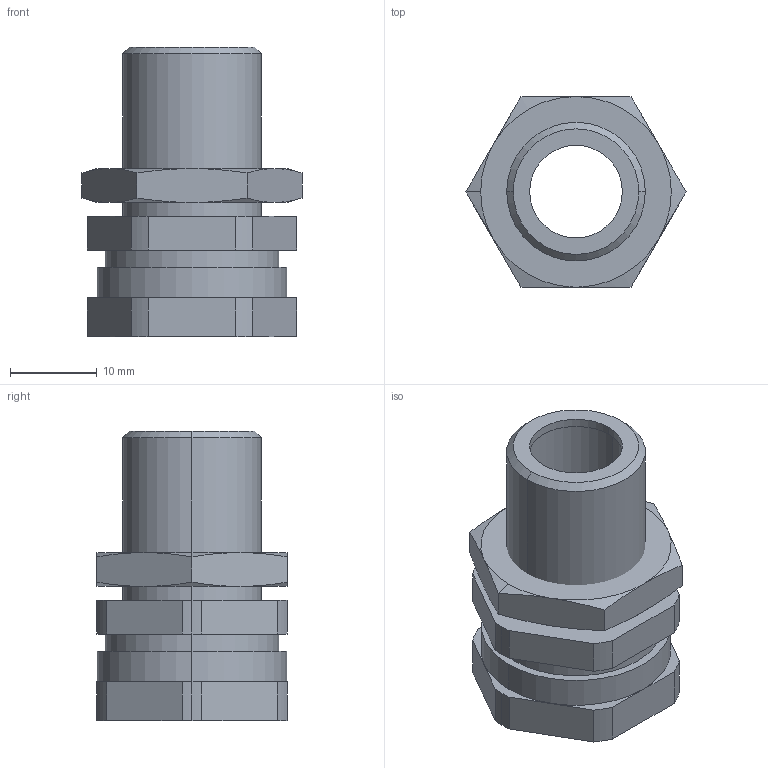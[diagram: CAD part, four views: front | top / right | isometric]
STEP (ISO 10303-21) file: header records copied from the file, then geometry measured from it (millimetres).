
FILE_DESCRIPTION (( 'STEP AP203' ), '1' );
FILE_NAME ('15030001_mit_Mutter.STEP', '2019-02-15T14:49:52', ( '' ), ( '' ), 'SwSTEP 2.0', 'SolidWorks 2015', '' );
FILE_SCHEMA (( 'CONFIG_CONTROL_DESIGN' ));
Length unit declared in the file: millimetre
Products named in the file (1): 15030001_mit_Mutter
Bounding box: 25.4 x 22 x 33.4 mm (x, y, z)
Volume: 6382.5 mm3; surface area: 4954.3 mm2
Topology: 2 solids, 2 shells, 71 faces, 180 edges, 118 vertices
Faces by surface type: plane 27, cylinder 26, cone 18
Entity records: 2327 total; most frequent: CARTESIAN_POINT 506, DIRECTION 370, ORIENTED_EDGE 360, EDGE_CURVE 180, AXIS2_PLACEMENT_3D 142, VERTEX_POINT 118, LINE 86, VECTOR 86
